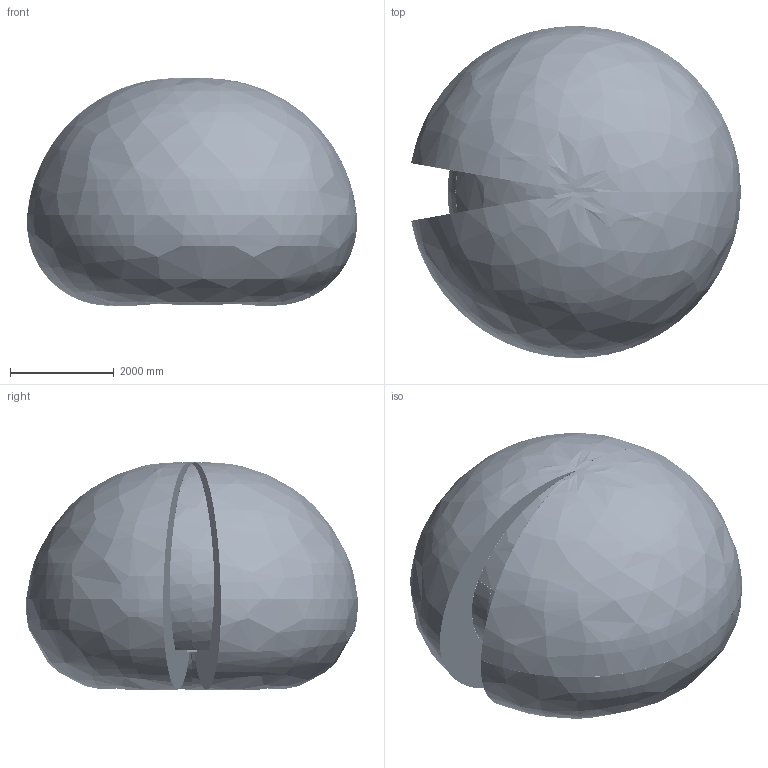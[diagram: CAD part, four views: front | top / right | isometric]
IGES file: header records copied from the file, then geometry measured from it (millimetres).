
Start section: SolidWorks IGES file using analytic representation for surfaces
Global section: file name: C:\Data\SAP_DOC\LW\IRB 6720\IRB6720-LID-SW_140kg-320_OC_01_SW_J\IRB6720-LID-SW_140kg-320_OC_01_IGES_J\IRB6720-LID-SW_140kg-320_OC_01_ASM_CAD.igs; native system: SolidWorks 2024; preprocessor: SolidWorks 2024; author: SEJOVAS3; date: 260610.140909; units: millimetre
Bounding box: 6351.41 x 6384.27 x 4371.64 mm (x, y, z)
Surface area: 151512876.4 mm2 (no closed solid volume)
Topology: 0 solids, 0 shells, 9894 faces, 154073 edges, 153906 vertices
Faces by surface type: bspline 5868, revolution 4026
